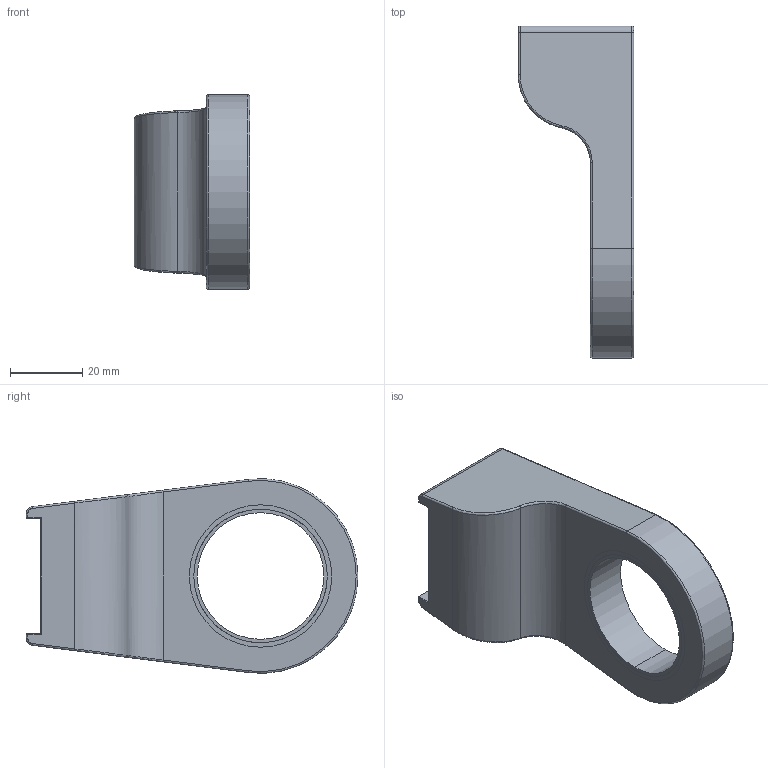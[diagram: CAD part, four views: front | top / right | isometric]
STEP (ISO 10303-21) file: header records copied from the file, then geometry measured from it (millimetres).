
FILE_DESCRIPTION((''),'2;1');
FILE_NAME('6158121360','2018-07-02T',('GREEXTADU'),(''),'CREO PARAMETRIC BY PTC INC, 2017170','CREO PARAMETRIC BY PTC INC, 2017170','');
FILE_SCHEMA(('AUTOMOTIVE_DESIGN { 1 0 10303 214 1 1 1 1 }'));
Length unit declared in the file: millimetre
Products named in the file (1): 6158121360
Bounding box: 32 x 92 x 53.95 mm (x, y, z)
Volume: 55595.7 mm3; surface area: 16934.9 mm2
Topology: 1 solids, 4 shells, 64 faces, 149 edges, 89 vertices
Faces by surface type: cylinder 25, plane 21, cone 8, torus 6, bspline 4
Entity records: 3197 total; most frequent: CARTESIAN_POINT 735, DIRECTION 323, ORIENTED_EDGE 282, PRESENTATION_STYLE_ASSIGNMENT 151, STYLED_ITEM 151, CURVE_STYLE 147, EDGE_CURVE 147, AXIS2_PLACEMENT_3D 125
